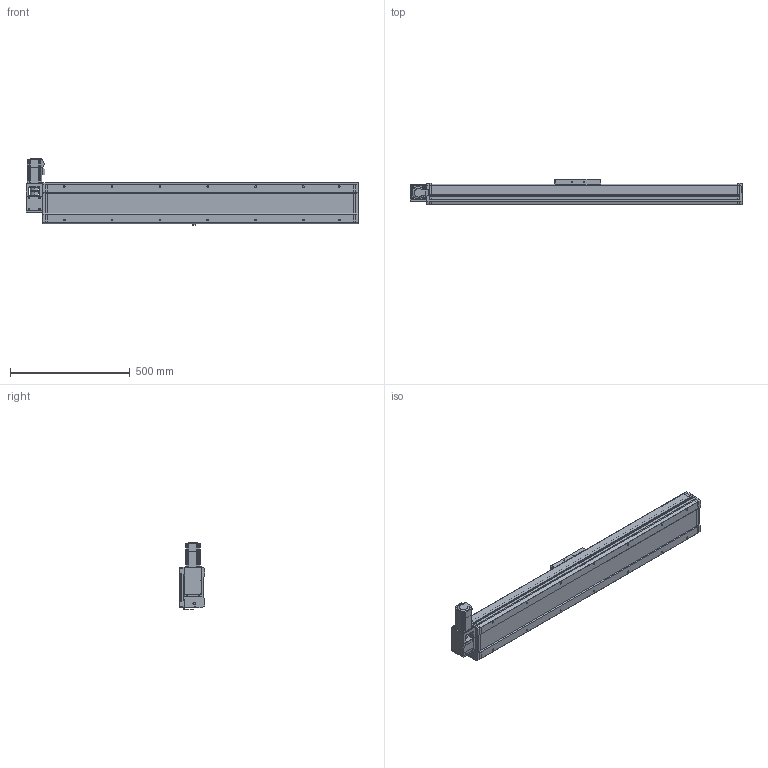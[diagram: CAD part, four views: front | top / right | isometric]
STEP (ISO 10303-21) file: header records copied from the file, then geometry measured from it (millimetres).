
FILE_DESCRIPTION((''),'2;1');
FILE_NAME('170-TZJ3FL-S1000_ASM','2015-12-04T',('lenovo'),(''),'PRO/ENGINEER BY PARAMETRIC TECHNOLOGY CORPORATION, 2010280','PRO/ENGINEER BY PARAMETRIC TECHNOLOGY CORPORATION, 2010280','');
FILE_SCHEMA(('CONFIG_CONTROL_DESIGN'));
Length unit declared in the file: millimetre
Products named in the file (5): 170-TJFL-DZ; 170-HK; 170-HDB-01; 170-TZJ3FL-DJZ; 170-TZJ3FL-S1000_ASM
Assembly tree (4 placements, depth 2):
  170-TZJ3FL-S1000_ASM
    170-TJFL-DZ
    170-HK
    170-HDB-01
    170-TZJ3FL-DJZ
Bounding box: 1389 x 107 x 278.5 mm (x, y, z)
Volume: 10401295.8 mm3; surface area: 1585420 mm2
Topology: 6 solids, 30 shells, 1486 faces, 4033 edges, 2689 vertices
Faces by surface type: plane 794, cylinder 551, cone 113, torus 28
Entity records: 47579 total; most frequent: CARTESIAN_POINT 8491, DIRECTION 8356, ORIENTED_EDGE 8066, EDGE_CURVE 4033, AXIS2_PLACEMENT_3D 2870, VERTEX_POINT 2689, VECTOR 2616, LINE 2616
